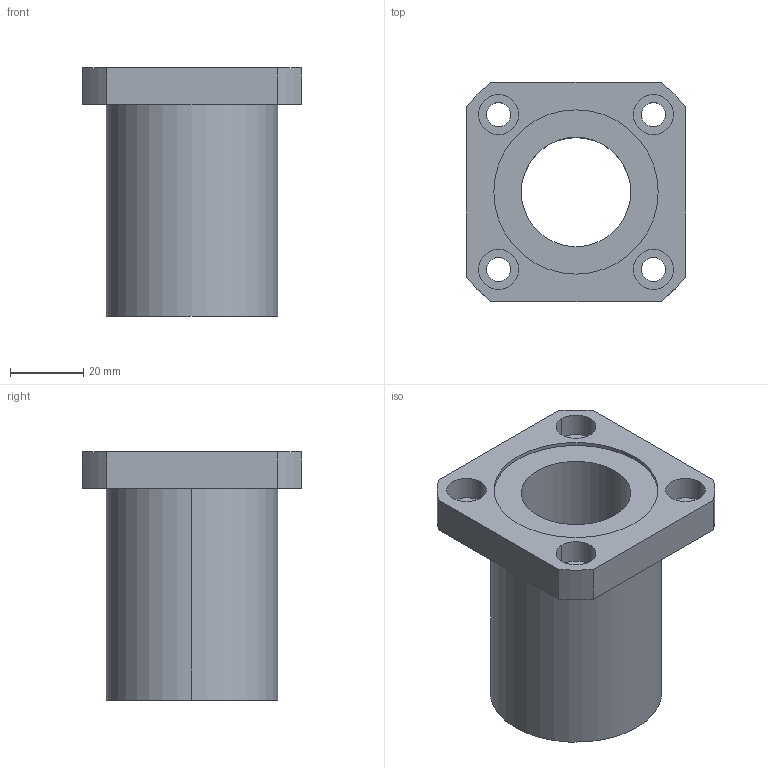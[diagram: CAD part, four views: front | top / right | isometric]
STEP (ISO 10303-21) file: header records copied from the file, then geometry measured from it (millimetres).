
FILE_DESCRIPTION((''),'2;1');
FILE_NAME('C:\Documents and Settings\ｿﾀﾀ蠑ｷ1\ｹﾙﾅﾁ ﾈｭｸ饅\ｺﾎﾇｰﾆﾄﾀﾏ\ﾁｦﾇｰ\LMEK__UU\LMEK30UU.stp','2005-06-15T10:59:12',('ｿﾀﾀ蠑ｷ1'),(''),'Autodesk Inventor 9','Autodesk Inventor 9','');
FILE_SCHEMA(('AUTOMOTIVE_DESIGN { 1 0 10303 214 1 1 1 1 }'));
Length unit declared in the file: millimetre
Products named in the file (1): LMEK__(L)
Bounding box: 60 x 60 x 68 mm (x, y, z)
Volume: 83026.5 mm3; surface area: 23849.4 mm2
Topology: 1 solids, 1 shells, 41 faces, 96 edges, 64 vertices
Faces by surface type: bspline 20, cylinder 12, plane 9
Entity records: 1457 total; most frequent: CARTESIAN_POINT 486, DIRECTION 196, ORIENTED_EDGE 192, EDGE_CURVE 96, AXIS2_PLACEMENT_3D 78, VERTEX_POINT 64, EDGE_LOOP 58, CIRCLE 56
